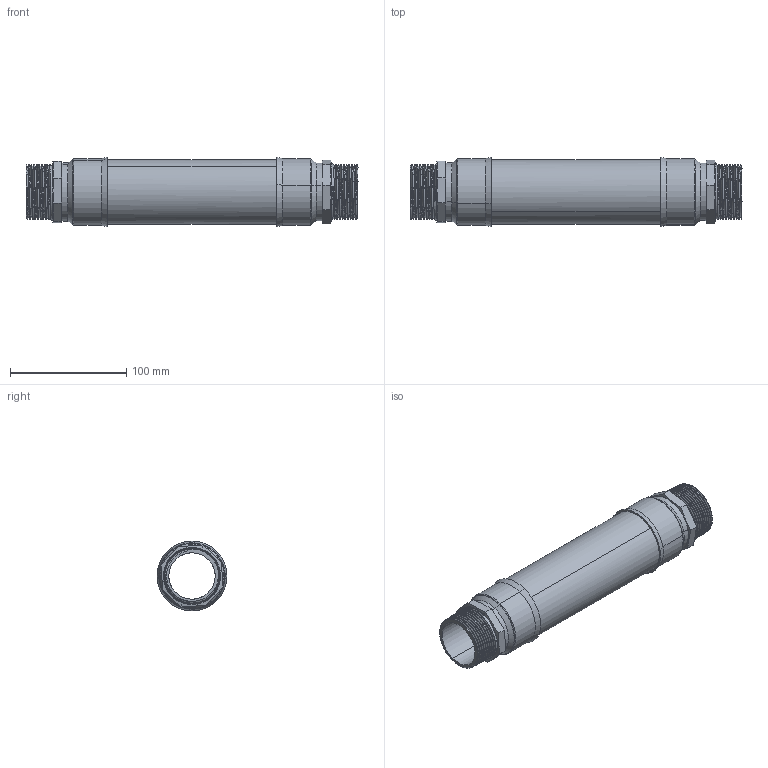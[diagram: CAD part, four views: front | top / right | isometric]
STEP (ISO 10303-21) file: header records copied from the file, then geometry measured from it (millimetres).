
FILE_DESCRIPTION (( 'STEP AP203' ), '1' );
FILE_NAME ('KP_TN40-3S.step', '2011-08-08T11:47:36', ( '' ), ( '' ), 'SwSTEP 2.0', 'SolidWorks 2011', '' );
FILE_SCHEMA (( 'CONFIG_CONTROL_DESIGN' ));
Length unit declared in the file: millimetre
Products named in the file (1): KP_TN40-3S
Bounding box: 286.09 x 60.3 x 60.3 mm (x, y, z)
Volume: 138405.7 mm3; surface area: 103113 mm2
Topology: 1 solids, 1 shells, 128 faces, 324 edges, 208 vertices
Faces by surface type: cone 70, plane 30, cylinder 20, bspline 8
Entity records: 18775 total; most frequent: CARTESIAN_POINT 15823, ORIENTED_EDGE 648, DIRECTION 516, EDGE_CURVE 324, VERTEX_POINT 208, AXIS2_PLACEMENT_3D 201, EDGE_LOOP 140, B_SPLINE_CURVE_WITH_KNOTS 130
